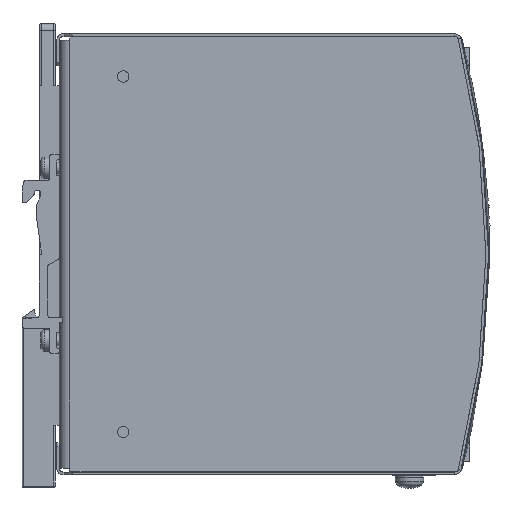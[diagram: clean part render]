
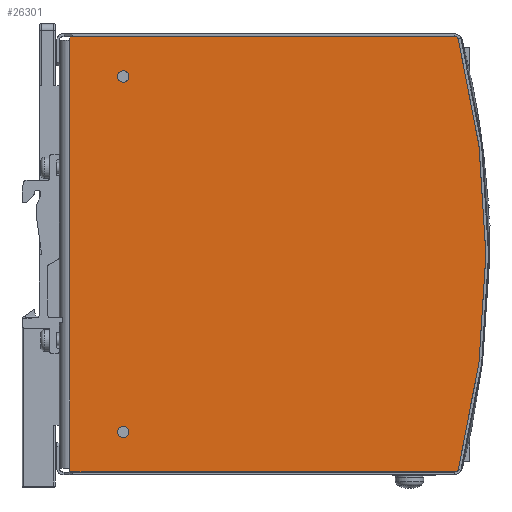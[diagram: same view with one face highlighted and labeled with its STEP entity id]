
A CAD part, front view. The second image highlights one B-rep face of the part: STEP entity #26301.
In plain terms, the highlighted planar face has unit normal (0, -1, 0) as drawn and (-1, 0, 0) by its records, which use the part's own axes.
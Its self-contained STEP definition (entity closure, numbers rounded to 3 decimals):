
#843=FACE_BOUND('',#3760,.T.);
#844=FACE_BOUND('',#3761,.T.);
#1136=PLANE('',#28161);
#2313=FACE_OUTER_BOUND('',#3759,.T.);
#3759=EDGE_LOOP('',(#18346,#18347,#18348,#18349,#18350,#18351,#18352,#18353));
#3760=EDGE_LOOP('',(#18354,#18355));
#3761=EDGE_LOOP('',(#18356,#18357));
#5483=LINE('',#37014,#8253);
#5494=LINE('',#37035,#8264);
#5497=LINE('',#37042,#8267);
#5499=LINE('',#37047,#8269);
#5500=LINE('',#37048,#8270);
#8253=VECTOR('',#30245,10.);
#8264=VECTOR('',#30266,10.);
#8267=VECTOR('',#30277,10.);
#8269=VECTOR('',#30285,10.);
#8270=VECTOR('',#30286,10.);
#10981=CIRCLE('',#28099,1.6);
#10982=CIRCLE('',#28100,1.6);
#10985=CIRCLE('',#28104,1.6);
#10986=CIRCLE('',#28105,1.6);
#10999=CIRCLE('',#28128,0.5);
#11002=CIRCLE('',#28132,240.);
#11010=CIRCLE('',#28146,0.5);
#11655=VERTEX_POINT('',#36866);
#11656=VERTEX_POINT('',#36867);
#11659=VERTEX_POINT('',#36876);
#11660=VERTEX_POINT('',#36877);
#11687=VERTEX_POINT('',#36949);
#11688=VERTEX_POINT('',#36950);
#11692=VERTEX_POINT('',#36960);
#11706=VERTEX_POINT('',#37001);
#11708=VERTEX_POINT('',#37007);
#11709=VERTEX_POINT('',#37013);
#11712=VERTEX_POINT('',#37026);
#11714=VERTEX_POINT('',#37033);
#14257=EDGE_CURVE('',#11655,#11656,#10981,.T.);
#14258=EDGE_CURVE('',#11656,#11655,#10982,.T.);
#14262=EDGE_CURVE('',#11659,#11660,#10985,.T.);
#14263=EDGE_CURVE('',#11660,#11659,#10986,.T.);
#14297=EDGE_CURVE('',#11687,#11688,#10999,.T.);
#14303=EDGE_CURVE('',#11687,#11692,#11002,.T.);
#14324=EDGE_CURVE('',#11706,#11692,#11010,.T.);
#14330=EDGE_CURVE('',#11708,#11709,#5483,.T.);
#14342=EDGE_CURVE('',#11714,#11712,#5494,.T.);
#14345=EDGE_CURVE('',#11688,#11714,#5497,.T.);
#14347=EDGE_CURVE('',#11709,#11706,#5499,.T.);
#14348=EDGE_CURVE('',#11712,#11708,#5500,.T.);
#18346=ORIENTED_EDGE('',*,*,#14297,.F.);
#18347=ORIENTED_EDGE('',*,*,#14303,.T.);
#18348=ORIENTED_EDGE('',*,*,#14324,.F.);
#18349=ORIENTED_EDGE('',*,*,#14347,.F.);
#18350=ORIENTED_EDGE('',*,*,#14330,.F.);
#18351=ORIENTED_EDGE('',*,*,#14348,.F.);
#18352=ORIENTED_EDGE('',*,*,#14342,.F.);
#18353=ORIENTED_EDGE('',*,*,#14345,.F.);
#18354=ORIENTED_EDGE('',*,*,#14257,.T.);
#18355=ORIENTED_EDGE('',*,*,#14258,.T.);
#18356=ORIENTED_EDGE('',*,*,#14262,.T.);
#18357=ORIENTED_EDGE('',*,*,#14263,.T.);
#26301=ADVANCED_FACE('',(#2313,#843,#844),#1136,.F.);
#28099=AXIS2_PLACEMENT_3D('',#36868,#30101,#30102);
#28100=AXIS2_PLACEMENT_3D('',#36869,#30103,#30104);
#28104=AXIS2_PLACEMENT_3D('',#36878,#30112,#30113);
#28105=AXIS2_PLACEMENT_3D('',#36879,#30114,#30115);
#28128=AXIS2_PLACEMENT_3D('',#36951,#30181,#30182);
#28132=AXIS2_PLACEMENT_3D('',#36962,#30192,#30193);
#28146=AXIS2_PLACEMENT_3D('',#37003,#30233,#30234);
#28161=AXIS2_PLACEMENT_3D('',#37046,#30283,#30284);
#30101=DIRECTION('center_axis',(1.,0.,0.));
#30102=DIRECTION('ref_axis',(0.,0.,
1.));
#30103=DIRECTION('center_axis',(1.,0.,0.));
#30104=DIRECTION('ref_axis',(0.,0.,
1.));
#30112=DIRECTION('center_axis',(1.,0.,0.));
#30113=DIRECTION('ref_axis',(0.,0.,
1.));
#30114=DIRECTION('center_axis',(1.,0.,0.));
#30115=DIRECTION('ref_axis',(0.,0.,
1.));
#30181=DIRECTION('center_axis',(1.,0.,0.));
#30182=DIRECTION('ref_axis',(0.,-0.611,-0.792));
#30192=DIRECTION('center_axis',(-1.,0.,0.));
#30193=DIRECTION('ref_axis',(0.,-0.967,0.255));
#30233=DIRECTION('center_axis',(1.,0.,0.));
#30234=DIRECTION('ref_axis',(0.,-0.611,0.792));
#30245=DIRECTION('',(0.,0.,1.));
#30266=DIRECTION('',(0.,0.,1.));
#30277=DIRECTION('',(0.,1.,0.));
#30283=DIRECTION('center_axis',(1.,0.,0.));
#30284=DIRECTION('ref_axis',(0.,0.,-1.));
#30285=DIRECTION('',(0.,-1.,0.));
#30286=DIRECTION('',(0.,0.,1.));
#36866=CARTESIAN_POINT('',(-29.5,-18.,-48.4));
#36867=CARTESIAN_POINT('',(-29.5,-18.,-51.6));
#36868=CARTESIAN_POINT('Origin',(-29.5,-18.,-50.));
#36869=CARTESIAN_POINT('Origin',(-29.5,-18.,-50.));
#36876=CARTESIAN_POINT('',(-29.5,-18.,51.6));
#36877=CARTESIAN_POINT('',(-29.5,-18.,48.4));
#36878=CARTESIAN_POINT('Origin',(-29.5,-18.,50.));
#36879=CARTESIAN_POINT('Origin',(-29.5,-18.,50.));
#36949=CARTESIAN_POINT('',(-29.5,-112.177,-60.777));
#36950=CARTESIAN_POINT('',(-29.5,-111.693,-61.15));
#36951=CARTESIAN_POINT('Origin',(-29.5,-111.693,-60.65));
#36960=CARTESIAN_POINT('',(-29.5,-112.177,60.777));
#36962=CARTESIAN_POINT('Origin',(-29.5,120.,0.));
#37001=CARTESIAN_POINT('',(-29.5,-111.693,61.15));
#37003=CARTESIAN_POINT('Origin',(-29.5,-111.693,60.65));
#37007=CARTESIAN_POINT('',(-29.5,-3.,60.15));
#37013=CARTESIAN_POINT('',(-29.5,-3.,61.15));
#37014=CARTESIAN_POINT('',(-29.5,-3.,0.));
#37026=CARTESIAN_POINT('',(-29.5,-3.,-60.15));
#37033=CARTESIAN_POINT('',(-29.5,-3.,-61.15));
#37035=CARTESIAN_POINT('',(-29.5,-3.,0.));
#37042=CARTESIAN_POINT('',(-29.5,56.786,-61.15));
#37046=CARTESIAN_POINT('Origin',(-29.5,26.893,0.));
#37047=CARTESIAN_POINT('',(-29.5,-120.,61.15));
#37048=CARTESIAN_POINT('',(-29.5,-3.,0.));
